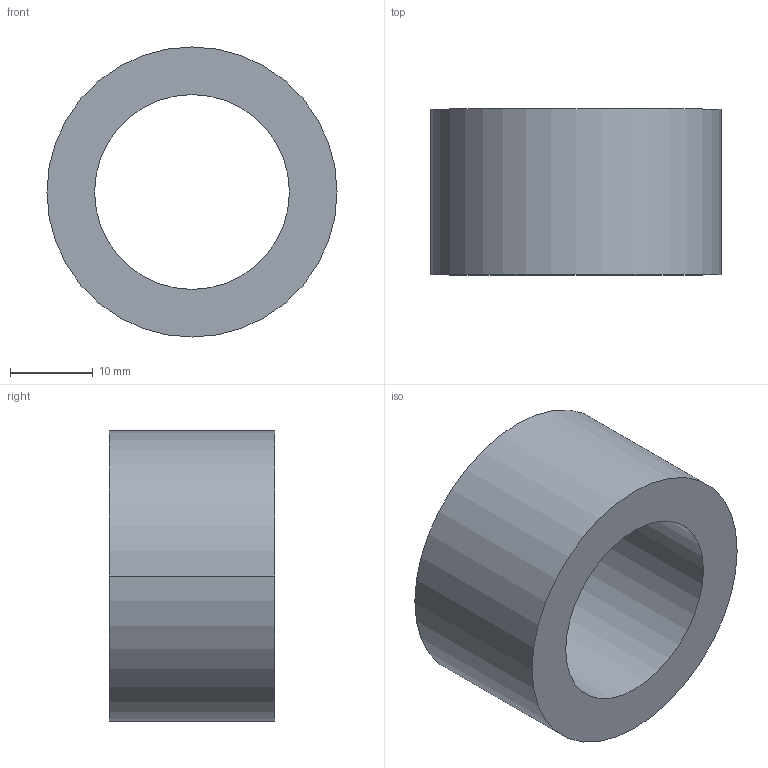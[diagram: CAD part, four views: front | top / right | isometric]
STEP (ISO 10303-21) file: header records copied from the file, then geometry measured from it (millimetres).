
FILE_DESCRIPTION (( 'STEP AP203' ), '1' );
FILE_NAME ('30800.WPP35H23.5.step', '2019-01-23T22:48:31', ( '' ), ( '' ), 'SwSTEP 2.0', 'SolidWorks 2017', '' );
FILE_SCHEMA (( 'CONFIG_CONTROL_DESIGN' ));
Length unit declared in the file: millimetre
Products named in the file (1): 30800.WPP35H23.5
Bounding box: 35 x 20 x 35 mm (x, y, z)
Volume: 10416.8 mm3; surface area: 4641.4 mm2
Topology: 1 solids, 1 shells, 8 faces, 16 edges, 10 vertices
Faces by surface type: cylinder 4, torus 2, plane 2
Entity records: 297 total; most frequent: DIRECTION 46, CARTESIAN_POINT 35, ORIENTED_EDGE 32, AXIS2_PLACEMENT_3D 21, EDGE_CURVE 16, CIRCLE 12, EDGE_LOOP 10, VERTEX_POINT 10
